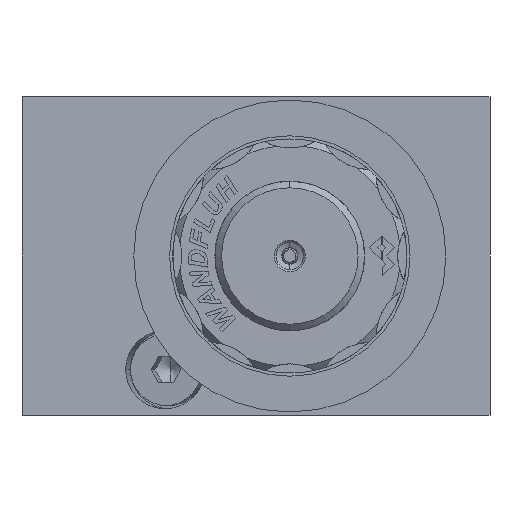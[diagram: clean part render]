
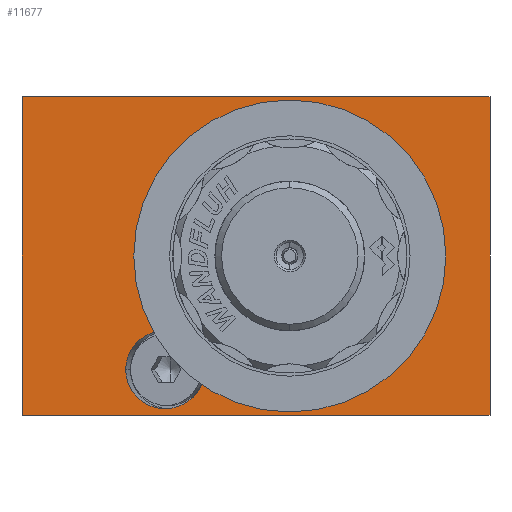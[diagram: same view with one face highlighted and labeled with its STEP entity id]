
A CAD part, left-side view. The second image highlights one B-rep face of the part: STEP entity #11677.
In plain terms, the highlighted planar face has unit normal (-1, 0, 0).
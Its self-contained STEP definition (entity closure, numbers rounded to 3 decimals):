
#1407 = CARTESIAN_POINT ( 'NONE',  ( -49., 20.045, -17.5 ) ) ;
#1799 = DIRECTION ( 'NONE',  ( 0., 0., -1. ) ) ;
#1869 = VECTOR ( 'NONE', #12074, 1000. ) ;
#3190 = EDGE_CURVE ( 'NONE', #20362, #33486, #3869, .T. ) ;
#3869 = LINE ( 'NONE', #36939, #6929 ) ;
#4698 = FACE_BOUND ( 'NONE', #29855, .T. ) ;
#4960 = DIRECTION ( 'NONE',  ( 0., 0., -1. ) ) ;
#6332 = ORIENTED_EDGE ( 'NONE', *, *, #32186, .F. ) ;
#6507 = CARTESIAN_POINT ( 'NONE',  ( -49., 20.045, -5.5 ) ) ;
#6526 = EDGE_CURVE ( 'NONE', #49369, #37459, #43701, .T. ) ;
#6772 = ORIENTED_EDGE ( 'NONE', *, *, #28027, .T. ) ;
#6929 = VECTOR ( 'NONE', #8054, 1000. ) ;
#8054 = DIRECTION ( 'NONE',  ( 0., 0., 1. ) ) ;
#9150 = PLANE ( 'NONE',  #23689 ) ;
#9430 = DIRECTION ( 'NONE',  ( 0., -1., 0. ) ) ;
#9764 = VECTOR ( 'NONE', #9430, 1000. ) ;
#9938 = CARTESIAN_POINT ( 'NONE',  ( -49., -5.2, 0. ) ) ;
#11677 = ADVANCED_FACE ( 'NONE', ( #12763, #4698, #46635 ), #9150, .F. ) ;
#12074 = DIRECTION ( 'NONE',  ( 0., 0., 1. ) ) ;
#12096 = DIRECTION ( 'NONE',  ( 0., -1., 0. ) ) ;
#12233 = CIRCLE ( 'NONE', #53955, 14.5 ) ;
#12362 = CIRCLE ( 'NONE', #19473, 14.5 ) ;
#12489 = CARTESIAN_POINT ( 'NONE',  ( -49., -36., 24.5 ) ) ;
#12763 = FACE_OUTER_BOUND ( 'NONE', #12889, .T. ) ;
#12889 = EDGE_LOOP ( 'NONE', ( #37370, #43002, #42015, #24962 ) ) ;
#13622 = VERTEX_POINT ( 'NONE', #38170 ) ;
#13864 = CARTESIAN_POINT ( 'NONE',  ( -49., 36., 24.5 ) ) ;
#14197 = CARTESIAN_POINT ( 'NONE',  ( -49., 7.955, -17.5 ) ) ;
#14372 = DIRECTION ( 'NONE',  ( 1., 0., 0. ) ) ;
#14434 = CARTESIAN_POINT ( 'NONE',  ( -49., -5.2, -14.5 ) ) ;
#15806 = EDGE_CURVE ( 'NONE', #13622, #33486, #51373, .T. ) ;
#16426 = CARTESIAN_POINT ( 'NONE',  ( -49., -5.2, 14.5 ) ) ;
#17157 = VERTEX_POINT ( 'NONE', #14434 ) ;
#18361 = CARTESIAN_POINT ( 'NONE',  ( -49., 20.045, -29.5 ) ) ;
#19473 = AXIS2_PLACEMENT_3D ( 'NONE', #9938, #14372, #48252 ) ;
#20362 = VERTEX_POINT ( 'NONE', #47527 ) ;
#21519 = EDGE_CURVE ( 'NONE', #43167, #13622, #25664, .T. ) ;
#22088 = CARTESIAN_POINT ( 'NONE',  ( -49., -5.2, 0. ) ) ;
#23440 = CARTESIAN_POINT ( 'NONE',  ( -49., 20.045, -17.5 ) ) ;
#23689 = AXIS2_PLACEMENT_3D ( 'NONE', #54969, #38579, #4960 ) ;
#24117 = ORIENTED_EDGE ( 'NONE', *, *, #25320, .T. ) ;
#24962 = ORIENTED_EDGE ( 'NONE', *, *, #25556, .T. ) ;
#25127 = CARTESIAN_POINT ( 'NONE',  ( -49., 36., 24.5 ) ) ;
#25320 = EDGE_CURVE ( 'NONE', #17157, #29342, #12362, .T. ) ;
#25556 = EDGE_CURVE ( 'NONE', #43167, #20362, #33470, .T. ) ;
#25664 = LINE ( 'NONE', #25127, #1869 ) ;
#25843 = CARTESIAN_POINT ( 'NONE',  ( -49., 36., -24.5 ) ) ;
#28027 = EDGE_CURVE ( 'NONE', #29342, #17157, #12233, .T. ) ;
#28761 = CARTESIAN_POINT ( 'NONE',  ( -49., 36., -24.5 ) ) ;
#29342 = VERTEX_POINT ( 'NONE', #16426 ) ;
#29855 = EDGE_LOOP ( 'NONE', ( #24117, #6772 ) ) ;
#30790 = CARTESIAN_POINT ( 'NONE',  ( -49., 20.045, -17.5 ) ) ;
#32186 = EDGE_CURVE ( 'NONE', #37459, #49369, #47903, .T. ) ;
#33470 = LINE ( 'NONE', #28761, #39062 ) ;
#33486 = VERTEX_POINT ( 'NONE', #12489 ) ;
#35298 = CARTESIAN_POINT ( 'NONE',  ( -49., 7.955, -29.5 ) ) ;
#35950 = CARTESIAN_POINT ( 'NONE',  ( -49., 7.955, -17.5 ) ) ;
#36471 = CARTESIAN_POINT ( 'NONE',  ( -49., 7.955, -17.5 ) ) ;
#36939 = CARTESIAN_POINT ( 'NONE',  ( -49., -36., 24.5 ) ) ;
#37370 = ORIENTED_EDGE ( 'NONE', *, *, #3190, .T. ) ;
#37459 = VERTEX_POINT ( 'NONE', #30790 ) ;
#38170 = CARTESIAN_POINT ( 'NONE',  ( -49., 36., 24.5 ) ) ;
#38579 = DIRECTION ( 'NONE',  ( 1., 0., 0. ) ) ;
#39062 = VECTOR ( 'NONE', #12096, 1000. ) ;
#42015 = ORIENTED_EDGE ( 'NONE', *, *, #21519, .F. ) ;
#43002 = ORIENTED_EDGE ( 'NONE', *, *, #15806, .F. ) ;
#43167 = VERTEX_POINT ( 'NONE', #25843 ) ;
#43701 =( BOUNDED_CURVE ( )  B_SPLINE_CURVE ( 3, ( #35950, #44571, #6507, #23440 ),
 .UNSPECIFIED., .F., .F. ) 
 B_SPLINE_CURVE_WITH_KNOTS ( ( 4, 4 ),
 ( 3.142, 6.283 ),
 .UNSPECIFIED. ) 
 CURVE ( )  GEOMETRIC_REPRESENTATION_ITEM ( )  RATIONAL_B_SPLINE_CURVE ( ( 1., 0.333, 0.333, 1. ) ) 
 REPRESENTATION_ITEM ( '' )  );
#44571 = CARTESIAN_POINT ( 'NONE',  ( -49., 7.955, -5.5 ) ) ;
#46020 = EDGE_LOOP ( 'NONE', ( #50243, #6332 ) ) ;
#46635 = FACE_BOUND ( 'NONE', #46020, .T. ) ;
#47527 = CARTESIAN_POINT ( 'NONE',  ( -49., -36., -24.5 ) ) ;
#47903 =( BOUNDED_CURVE ( )  B_SPLINE_CURVE ( 3, ( #1407, #18361, #35298, #14197 ),
 .UNSPECIFIED., .F., .F. ) 
 B_SPLINE_CURVE_WITH_KNOTS ( ( 4, 4 ),
 ( 0., 3.142 ),
 .UNSPECIFIED. ) 
 CURVE ( )  GEOMETRIC_REPRESENTATION_ITEM ( )  RATIONAL_B_SPLINE_CURVE ( ( 1., 0.333, 0.333, 1. ) ) 
 REPRESENTATION_ITEM ( '' )  );
#48205 = DIRECTION ( 'NONE',  ( 1., 0., 0. ) ) ;
#48252 = DIRECTION ( 'NONE',  ( 0., 0., -1. ) ) ;
#49369 = VERTEX_POINT ( 'NONE', #36471 ) ;
#50243 = ORIENTED_EDGE ( 'NONE', *, *, #6526, .F. ) ;
#51373 = LINE ( 'NONE', #13864, #9764 ) ;
#53955 = AXIS2_PLACEMENT_3D ( 'NONE', #22088, #48205, #1799 ) ;
#54969 = CARTESIAN_POINT ( 'NONE',  ( -49., 36., 24.5 ) ) ;
